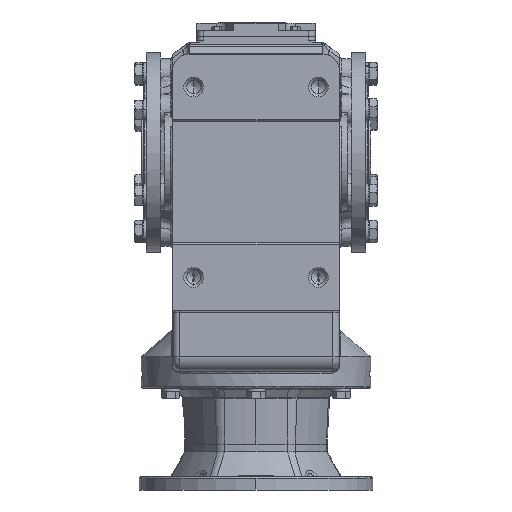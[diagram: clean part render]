
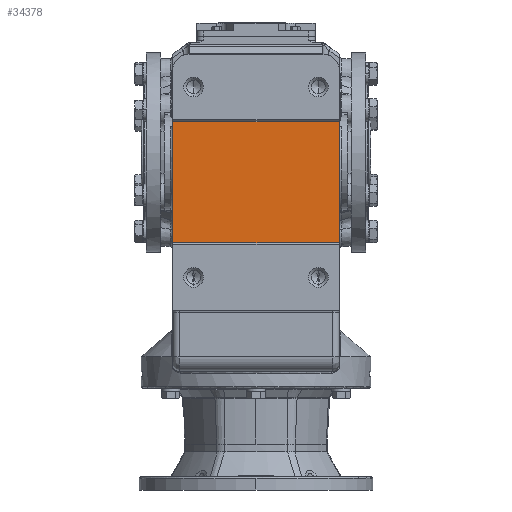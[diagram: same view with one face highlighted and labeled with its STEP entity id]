
A CAD part, front view. The second image highlights one B-rep face of the part: STEP entity #34378.
In plain terms, the highlighted planar face has unit normal (0, -1, 0).
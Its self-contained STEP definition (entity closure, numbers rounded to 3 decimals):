
#5857 = FACE_OUTER_BOUND ( 'NONE', #84510, .T. ) ;
#6445 = CARTESIAN_POINT ( 'NONE',  ( -127., -310., 47. ) ) ;
#6448 = DIRECTION ( 'NONE',  ( -1., 0., 0. ) ) ;
#6450 = DIRECTION ( 'NONE',  ( 0., 0., -1. ) ) ;
#6454 = CARTESIAN_POINT ( 'NONE',  ( -127., -310., -333. ) ) ;
#6459 = CARTESIAN_POINT ( 'NONE',  ( 102., -310., -137. ) ) ;
#6460 = DIRECTION ( 'NONE',  ( 1., 0., 0. ) ) ;
#6461 = CARTESIAN_POINT ( 'NONE',  ( 127., -310., -92.487 ) ) ;
#6462 = DIRECTION ( 'NONE',  ( 0., 0., -1. ) ) ;
#9855 = ORIENTED_EDGE ( 'NONE', *, *, #87628, .T. ) ;
#9857 = ORIENTED_EDGE ( 'NONE', *, *, #87631, .T. ) ;
#9859 = ORIENTED_EDGE ( 'NONE', *, *, #87634, .F. ) ;
#9861 = ORIENTED_EDGE ( 'NONE', *, *, #87614, .T. ) ;
#25988 = CARTESIAN_POINT ( 'NONE',  ( -127., -310., -333. ) ) ;
#25993 = PLANE ( 'NONE',  #71456 ) ;
#25996 = DIRECTION ( 'NONE',  ( 0., -1., 0. ) ) ;
#25997 = DIRECTION ( 'NONE',  ( 0., 0., -1. ) ) ;
#32152 = CARTESIAN_POINT ( 'NONE',  ( -127., -310., 47. ) ) ;
#34378 = ADVANCED_FACE ( 'NONE', ( #5857 ), #25993, .T. ) ;
#68221 = LINE ( 'NONE', #6445, #68228 ) ;
#68228 = VECTOR ( 'NONE', #6448, 1000. ) ;
#68236 = LINE ( 'NONE', #6454, #68240 ) ;
#68238 = LINE ( 'NONE', #6459, #68243 ) ;
#68240 = VECTOR ( 'NONE', #6450, 1000. ) ;
#68242 = LINE ( 'NONE', #6461, #68247 ) ;
#68243 = VECTOR ( 'NONE', #6460, 1000. ) ;
#68247 = VECTOR ( 'NONE', #6462, 1000. ) ;
#71456 = AXIS2_PLACEMENT_3D ( 'NONE', #25988, #25996, #25997 ) ;
#72395 = VERTEX_POINT ( 'NONE', #106344 ) ;
#72672 = VERTEX_POINT ( 'NONE', #106558 ) ;
#79106 = VERTEX_POINT ( 'NONE', #32152 ) ;
#84510 = EDGE_LOOP ( 'NONE', ( #9855, #9857, #9859, #9861 ) ) ;
#87614 = EDGE_CURVE ( 'NONE', #72395, #79106, #68221, .T. ) ;
#87628 = EDGE_CURVE ( 'NONE', #79106, #72672, #68236, .T. ) ;
#87631 = EDGE_CURVE ( 'NONE', #72672, #102501, #68238, .T. ) ;
#87634 = EDGE_CURVE ( 'NONE', #72395, #102501, #68242, .T. ) ;
#102501 = VERTEX_POINT ( 'NONE', #102986 ) ;
#102986 = CARTESIAN_POINT ( 'NONE',  ( 127., -310., -137. ) ) ;
#106344 = CARTESIAN_POINT ( 'NONE',  ( 127., -310., 47. ) ) ;
#106558 = CARTESIAN_POINT ( 'NONE',  ( -127., -310., -137. ) ) ;
